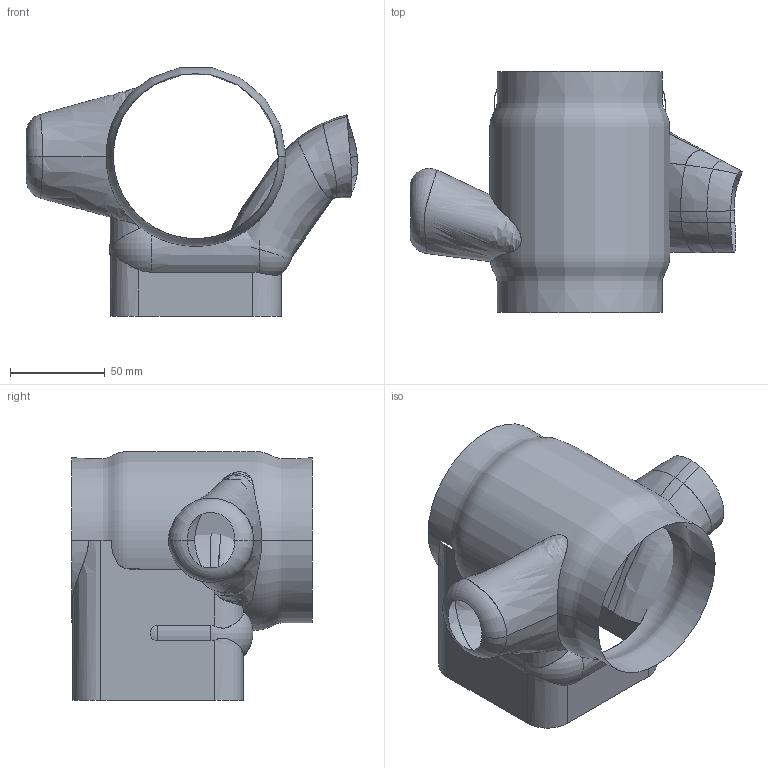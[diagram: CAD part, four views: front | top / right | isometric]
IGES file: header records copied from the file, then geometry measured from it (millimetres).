
Start section:  PTC IGES file: problem.igs
Global section: file name: problem.igs; native system: Pro/ENGINEER by Parametric Technology Corporation; preprocessor: 2005170; author: kbaumgaertner; organization: Unknown; date: 060914.065931; units: millimetre
Bounding box: 175.04 x 127 x 131.28 mm (x, y, z)
Surface area: 63859.9 mm2 (no closed solid volume)
Topology: 0 solids, 0 shells, 46 faces, 227 edges, 227 vertices
Faces by surface type: bspline 30, revolution 16
